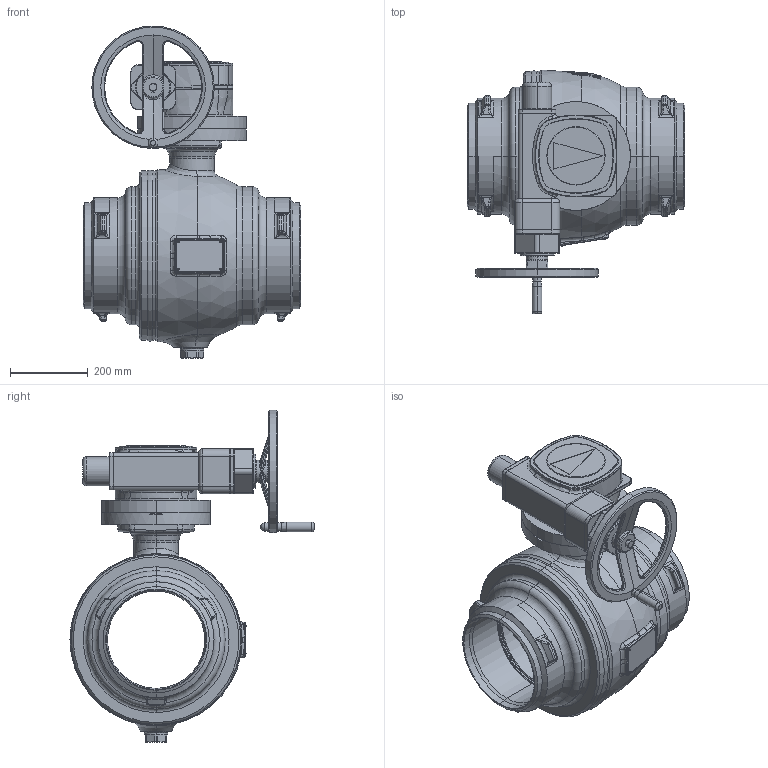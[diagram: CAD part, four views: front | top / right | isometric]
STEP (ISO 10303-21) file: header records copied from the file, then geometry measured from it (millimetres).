
FILE_DESCRIPTION((''),'2;1');
FILE_NAME('ASM0010_ASM','2016-04-29T',('schwaba'),('RAND'),'PRO/ENGINEER BY PARAMETRIC TECHNOLOGY CORPORATION, 2013410','PRO/ENGINEER BY PARAMETRIC TECHNOLOGY CORPORATION, 2013410','');
FILE_SCHEMA(('CONFIG_CONTROL_DESIGN'));
Products named in the file (7): KHISL250VSL250P040MKK_SW0001; PRT0009; PRT0010; PRT0011; ASM0003_ASM_1_ASM; GS100_250-300_ASM; ASM0010_ASM
Assembly tree (6 placements, depth 4):
  ASM0010_ASM
    KHISL250VSL250P040MKK_SW0001
    GS100_250-300_ASM
      ASM0003_ASM_1_ASM
        PRT0009
        PRT0010
        PRT0011
Bounding box: 559 x 627.46 x 853.5 mm (x, y, z)
Volume: 33509035.9 mm3; surface area: 3465736.7 mm2
Topology: 4 solids, 12 shells, 2192 faces, 5515 edges, 3414 vertices
Faces by surface type: plane 1037, cylinder 451, torus 252, bspline 202, cone 175, sphere 75
Entity records: 108413 total; most frequent: CARTESIAN_POINT 55984, DIRECTION 11408, ORIENTED_EDGE 10974, EDGE_CURVE 5487, AXIS2_PLACEMENT_3D 4839, VERTEX_POINT 3414, CIRCLE 2832, EDGE_LOOP 2367
